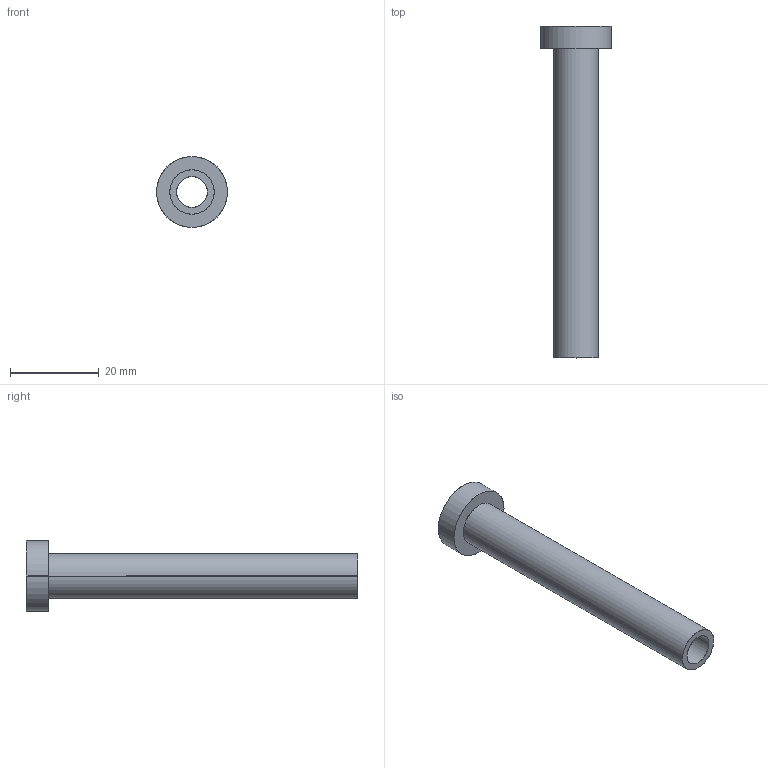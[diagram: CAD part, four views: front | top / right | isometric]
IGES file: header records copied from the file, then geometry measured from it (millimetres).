
Start section: SolidWorks IGES file using analytic representation for surfaces
Global section: file name: D:\Cleonir_particular\Matripeças\Buchas Extratoras\BE07,010075.IGS; native system: SolidWorks 2013; preprocessor: SolidWorks 2013; author: Cleonir; date: 130304.171447; units: millimetre
Bounding box: 16 x 75 x 16 mm (x, y, z)
Surface area: 4487.4 mm2 (no closed solid volume)
Topology: 0 solids, 0 shells, 306 faces, 2944 edges, 2944 vertices
Faces by surface type: bspline 286, revolution 20
